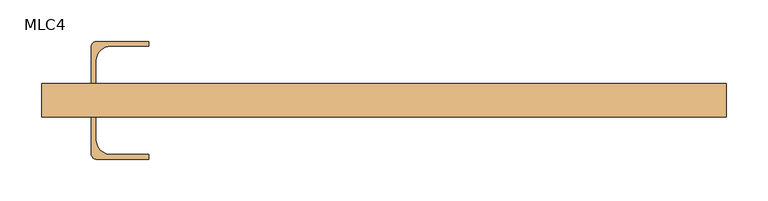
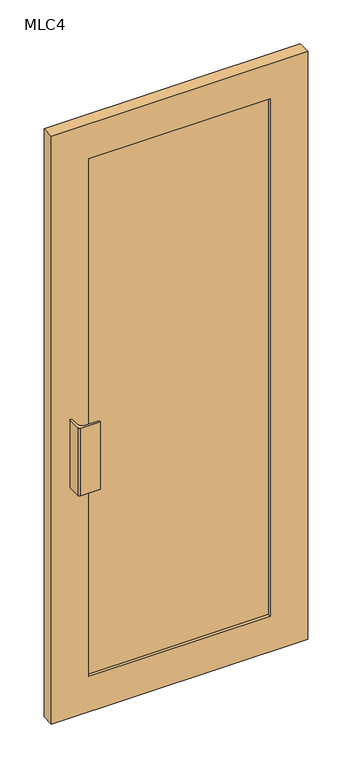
"""IFC4 building model written with IfcOpenShell, lengths in millimetres: door geometry, 门嵌板_单开门2 : MLC4."""

from ifc_helpers import new_model, si_unit, point, frame, frame_2d, origin, place, context, project, spatial, polyline, circle_curve, trimmed, segment, composite_curve, outline, extrude, source, transform, mapped, element, save


def mlc4_8405c642(model_context):
    return source(origin(), model_context, "Body", "SweptSolid", [
        extrude(outline(composite_curve([segment(polyline([(-352.5, -20.0), (-347.0, -20.0), (-347.0, -47.5)]), True, "CONTINUOUS"), segment(trimmed(circle_curve(frame_2d((-329.0, -47.5)), 18.0), [point((-347.0, -47.5))], [point((-329.0, -65.5))], True, "CARTESIAN"), True, "CONTINUOUS"), segment(polyline([(-329.0, -65.5), (-283.5, -65.5), (-283.5, -71.0), (-346.5, -71.0)]), True, "CONTINUOUS"), segment(trimmed(circle_curve(frame_2d((-346.5, -65.0)), 6.0), [point((-346.5, -71.0))], [point((-352.5, -65.0))], False, "CARTESIAN"), True, "CONTINUOUS"), segment(polyline([(-352.5, -65.0), (-352.5, -20.0)]), True, "CONTINUOUS")], self_intersect=False)), frame((0.0, 0.0, 785.0), z_axis=(0.0, 0.0, 1.0), x_axis=(1.0, 0.0, 0.0)), (0.0, 0.0, 1.0), 230.0),
        extrude(outline(composite_curve([segment(polyline([(-352.5, 20.0), (-352.5, 65.0)]), True, "CONTINUOUS"), segment(trimmed(circle_curve(frame_2d((-346.5, 65.0)), 6.0), [point((-352.5, 65.0))], [point((-346.5, 71.0))], False, "CARTESIAN"), True, "CONTINUOUS"), segment(polyline([(-346.5, 71.0), (-283.5, 71.0), (-283.5, 65.5), (-329.0, 65.5)]), True, "CONTINUOUS"), segment(trimmed(circle_curve(frame_2d((-329.0, 47.5)), 18.0), [point((-329.0, 65.5))], [point((-347.0, 47.5))], True, "CARTESIAN"), True, "CONTINUOUS"), segment(polyline([(-347.0, 47.5), (-347.0, 20.0), (-352.5, 20.0)]), True, "CONTINUOUS")], self_intersect=False)), frame((0.0, 0.0, 785.0), z_axis=(0.0, 0.0, 1.0), x_axis=(1.0, 0.0, 0.0)), (0.0, 0.0, 1.0), 230.0),
        extrude(outline(polyline([(292.5, 10.0), (292.5, -10.0), (-292.5, -10.0), (-292.5, 10.0), (292.5, 10.0)])), frame((0.0, 0.0, 120.0), z_axis=(0.0, 0.0, 1.0), x_axis=(1.0, 0.0, 0.0)), (0.0, 0.0, 1.0), 1761.0),
        extrude(outline(polyline([(2001.0, -412.5), (0.0, -412.5), (0.0, 412.5), (2001.0, 412.5), (2001.0, -412.5)]), holes=[polyline([(1881.0, -292.5), (1881.0, 292.5), (120.0, 292.5), (120.0, -292.5), (1881.0, -292.5)])]), frame((0.0, -20.0, 0.0), z_axis=(0.0, 1.0, 0.0), x_axis=(0.0, 0.0, 1.0)), (0.0, 0.0, 1.0), 40.0),
    ])


if __name__ == "__main__":
    model = new_model("IFC4")
    model_context = context("Model", 3, world=origin())
    ifc_project = project(units=[si_unit("LENGTHUNIT", "METRE", prefix="MILLI")], contexts=[model_context])
    site = spatial("IfcSite", under=ifc_project)
    building = spatial("IfcBuilding", under=site)
    placement = place(None, origin())
    mlc4_shape = mlc4_8405c642(model_context)
    element("IfcDoor", 1, ObjectType="门嵌板_单开门2 : MLC4", at=placement, inside=building, context=model_context, shape_type="MappedRepresentation", body=[
        mapped(mlc4_shape, transform((0.0, 0.0, 0.0), x_axis=(1.0, 0.0, 0.0), y_axis=(0.0, 1.0, 0.0), z_axis=(0.0, 0.0, 1.0))),
    ])
    save(model, "model.ifc")
